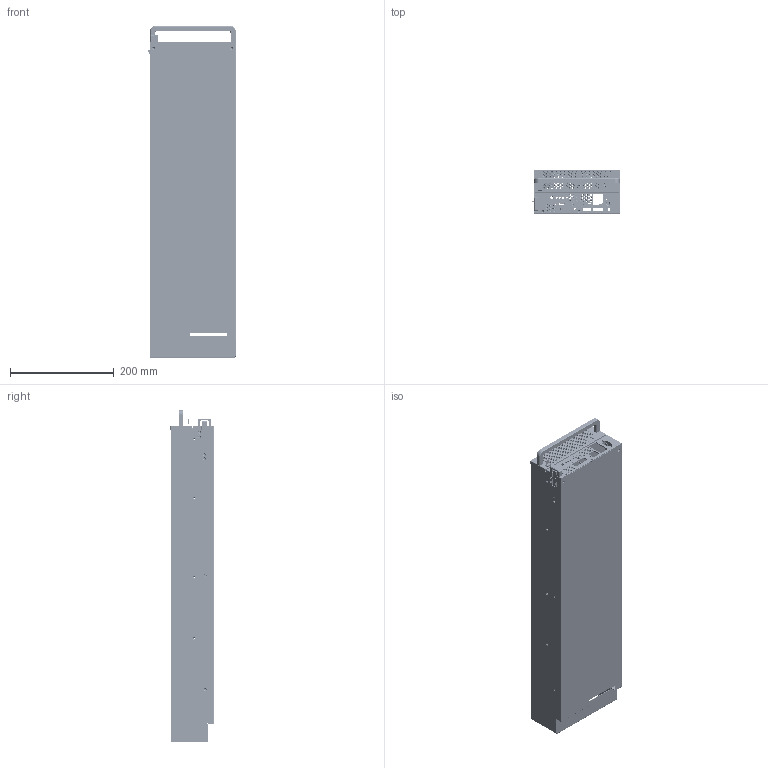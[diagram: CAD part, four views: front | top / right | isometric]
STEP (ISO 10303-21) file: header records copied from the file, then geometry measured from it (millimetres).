
FILE_DESCRIPTION((''),'2;1');
FILE_NAME('BROADWELL_DE_CARD_ASSY_ASM','2016-12-16T',('Administrator'),(''),'PRO/ENGINEER BY PARAMETRIC TECHNOLOGY CORPORATION, 2011490','PRO/ENGINEER BY PARAMETRIC TECHNOLOGY CORPORATION, 2011490','');
FILE_SCHEMA(('AUTOMOTIVE_DESIGN { 1 0 10303 214 1 1 1 1 }'));
Products named in the file (29): BROADWELL_DE_BLADE_PANEL_DUBLE; SKT_CPU_FRONT_PANEL_1; K2412M_MODULE_LOCK_SPRING; SKT_CPU_FRONT_BRKT_L; SKT_CPU_FRONT_BRKT_R; K2412M_MODULE_FRONT_PANEL; K2412M_MODULE_LOCK_GUIDE; SKT_CPU_POWER_LED_COVER; SKT_CPU_SW_BOARD_ASSY_ASM; K2412M_SSD_SAS_PANEL; K2412M_SSD_MODULE_GUIDE; K2412M_SSD_MODULE_BOTTOM; K2412M_SSD_MODULE_TOP; K2412_SSD_MODULE_ASM; SKT_SSD_FRONT_PANEL; K2412M_SSD_SAS_TOP; K2412M_SSD_MODULE_FRONT_BRKT_L; K2412M_MODULE_HANDLE; K2412M_CABLE_CARRIER_BOTTOM; K2412M_CABLE_CARRIER_TOP; K2412M_SSD_MODULE_LOCK_SPRING; K2412M_SSD_MODULE_MOVE_LOCK; K2412M_MODULE_FAN_BRKT; STANDOFF_M3_4; STANDOFF_M3_7; STANDOFF_M3_10_6; K2412M_SSD_MODULE_RAIL; 60H173103-163; BROADWELL_DE_CARD_ASSY_ASM
Assembly tree (57 placements, depth 3):
  BROADWELL_DE_CARD_ASSY_ASM
    BROADWELL_DE_BLADE_PANEL_DUBLE
    SKT_CPU_FRONT_PANEL_1
    K2412M_MODULE_LOCK_SPRING
    SKT_CPU_FRONT_BRKT_L
    SKT_CPU_FRONT_BRKT_R
    K2412M_MODULE_FRONT_PANEL
    K2412M_MODULE_LOCK_GUIDE
    SKT_CPU_SW_BOARD_ASSY_ASM
      SKT_CPU_POWER_LED_COVER
    K2412M_SSD_SAS_PANEL
    K2412_SSD_MODULE_ASM
      K2412M_SSD_MODULE_GUIDE  x5
      K2412M_SSD_MODULE_BOTTOM
      K2412M_SSD_MODULE_TOP
    SKT_SSD_FRONT_PANEL
    K2412M_SSD_SAS_TOP
    K2412M_SSD_MODULE_FRONT_BRKT_L
    K2412M_MODULE_HANDLE
    K2412M_CABLE_CARRIER_BOTTOM
    K2412M_CABLE_CARRIER_TOP
    K2412M_SSD_MODULE_LOCK_SPRING
    K2412M_SSD_MODULE_MOVE_LOCK
    K2412M_MODULE_FAN_BRKT
    STANDOFF_M3_4  x22
    STANDOFF_M3_7  x4
    STANDOFF_M3_10_6
    K2412M_SSD_MODULE_RAIL  x2
    60H173103-163
Bounding box: 169.5 x 83.6 x 640 mm (x, y, z)
Volume: 704607.3 mm3; surface area: 1115184.5 mm2
Topology: 56 solids, 56 shells, 6795 faces, 18522 edges, 12015 vertices
Faces by surface type: plane 4448, cylinder 1489, cone 856, torus 2
Entity records: 135893 total; most frequent: CARTESIAN_POINT 19052, DIRECTION 18860, ORIENTED_EDGE 17776, PRESENTATION_STYLE_ASSIGNMENT 8952, STYLED_ITEM 8926, CURVE_STYLE 8888, EDGE_CURVE 8888, AXIS2_PLACEMENT_3D 6721
